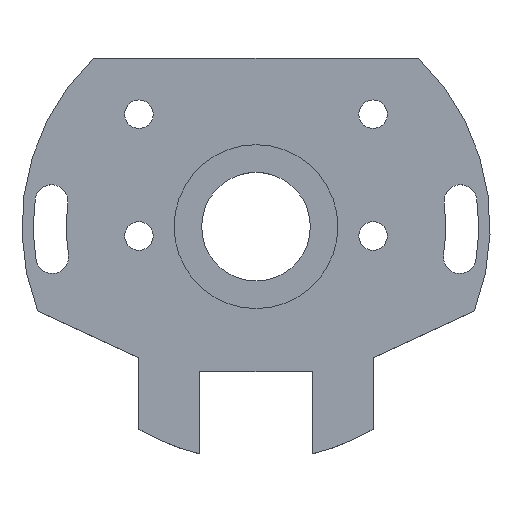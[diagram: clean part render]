
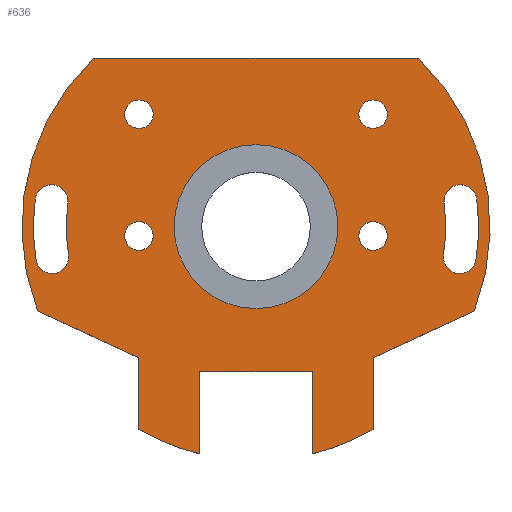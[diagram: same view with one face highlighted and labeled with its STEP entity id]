
A CAD part, top view. The second image highlights one B-rep face of the part: STEP entity #636.
In plain terms, the highlighted planar face has unit normal (0, 0, 1).
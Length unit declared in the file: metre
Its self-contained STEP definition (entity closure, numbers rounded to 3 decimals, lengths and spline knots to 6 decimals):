
#12=LINE('',#1019,#48);
#13=LINE('',#1022,#49);
#14=LINE('',#1026,#50);
#15=LINE('',#1028,#51);
#16=LINE('',#1032,#52);
#17=LINE('',#1036,#53);
#18=LINE('',#1038,#54);
#19=LINE('',#1042,#55);
#48=VECTOR('',#810,1.);
#49=VECTOR('',#811,1.);
#50=VECTOR('',#814,1.);
#51=VECTOR('',#815,1.);
#52=VECTOR('',#818,1.);
#53=VECTOR('',#821,1.);
#54=VECTOR('',#822,1.);
#55=VECTOR('',#825,1.);
#84=PLANE('',#690);
#101=ORIENTED_EDGE('',*,*,#269,.F.);
#102=ORIENTED_EDGE('',*,*,#270,.F.);
#103=ORIENTED_EDGE('',*,*,#271,.F.);
#104=ORIENTED_EDGE('',*,*,#272,.F.);
#105=ORIENTED_EDGE('',*,*,#273,.F.);
#106=ORIENTED_EDGE('',*,*,#274,.F.);
#107=ORIENTED_EDGE('',*,*,#275,.T.);
#108=ORIENTED_EDGE('',*,*,#276,.T.);
#109=ORIENTED_EDGE('',*,*,#277,.F.);
#110=ORIENTED_EDGE('',*,*,#278,.F.);
#111=ORIENTED_EDGE('',*,*,#279,.T.);
#112=ORIENTED_EDGE('',*,*,#280,.T.);
#113=ORIENTED_EDGE('',*,*,#281,.F.);
#114=ORIENTED_EDGE('',*,*,#282,.T.);
#115=ORIENTED_EDGE('',*,*,#283,.T.);
#116=ORIENTED_EDGE('',*,*,#284,.T.);
#117=ORIENTED_EDGE('',*,*,#285,.F.);
#118=ORIENTED_EDGE('',*,*,#286,.T.);
#119=ORIENTED_EDGE('',*,*,#287,.T.);
#120=ORIENTED_EDGE('',*,*,#288,.F.);
#121=ORIENTED_EDGE('',*,*,#289,.T.);
#122=ORIENTED_EDGE('',*,*,#290,.F.);
#123=ORIENTED_EDGE('',*,*,#291,.T.);
#124=ORIENTED_EDGE('',*,*,#292,.T.);
#125=ORIENTED_EDGE('',*,*,#293,.F.);
#269=EDGE_CURVE('',#353,#353,#417,.T.);
#270=EDGE_CURVE('',#354,#354,#418,.T.);
#271=EDGE_CURVE('',#355,#355,#419,.T.);
#272=EDGE_CURVE('',#356,#356,#420,.T.);
#273=EDGE_CURVE('',#357,#357,#421,.T.);
#274=EDGE_CURVE('',#358,#359,#422,.T.);
#275=EDGE_CURVE('',#358,#360,#423,.T.);
#276=EDGE_CURVE('',#360,#361,#424,.T.);
#277=EDGE_CURVE('',#359,#361,#425,.T.);
#278=EDGE_CURVE('',#362,#363,#426,.T.);
#279=EDGE_CURVE('',#362,#364,#427,.T.);
#280=EDGE_CURVE('',#364,#365,#428,.T.);
#281=EDGE_CURVE('',#363,#365,#429,.T.);
#282=EDGE_CURVE('',#366,#367,#12,.T.);
#283=EDGE_CURVE('',#367,#368,#13,.T.);
#284=EDGE_CURVE('',#368,#369,#430,.T.);
#285=EDGE_CURVE('',#370,#369,#14,.T.);
#286=EDGE_CURVE('',#370,#371,#15,.T.);
#287=EDGE_CURVE('',#371,#372,#431,.T.);
#288=EDGE_CURVE('',#373,#372,#16,.T.);
#289=EDGE_CURVE('',#373,#374,#432,.T.);
#290=EDGE_CURVE('',#375,#374,#17,.T.);
#291=EDGE_CURVE('',#375,#376,#18,.T.);
#292=EDGE_CURVE('',#376,#377,#433,.T.);
#293=EDGE_CURVE('',#366,#377,#19,.T.);
#353=VERTEX_POINT('',#994);
#354=VERTEX_POINT('',#996);
#355=VERTEX_POINT('',#998);
#356=VERTEX_POINT('',#1000);
#357=VERTEX_POINT('',#1002);
#358=VERTEX_POINT('',#1004);
#359=VERTEX_POINT('',#1005);
#360=VERTEX_POINT('',#1007);
#361=VERTEX_POINT('',#1009);
#362=VERTEX_POINT('',#1012);
#363=VERTEX_POINT('',#1013);
#364=VERTEX_POINT('',#1015);
#365=VERTEX_POINT('',#1017);
#366=VERTEX_POINT('',#1020);
#367=VERTEX_POINT('',#1021);
#368=VERTEX_POINT('',#1023);
#369=VERTEX_POINT('',#1025);
#370=VERTEX_POINT('',#1027);
#371=VERTEX_POINT('',#1029);
#372=VERTEX_POINT('',#1031);
#373=VERTEX_POINT('',#1033);
#374=VERTEX_POINT('',#1035);
#375=VERTEX_POINT('',#1037);
#376=VERTEX_POINT('',#1039);
#377=VERTEX_POINT('',#1041);
#417=CIRCLE('',#691,0.00305);
#418=CIRCLE('',#692,0.00305);
#419=CIRCLE('',#693,0.00305);
#420=CIRCLE('',#694,0.00305);
#421=CIRCLE('',#695,0.0175);
#422=CIRCLE('',#696,0.0035);
#423=CIRCLE('',#697,0.0475);
#424=CIRCLE('',#698,0.0035);
#425=CIRCLE('',#699,0.0405);
#426=CIRCLE('',#700,0.0035);
#427=CIRCLE('',#701,0.0405);
#428=CIRCLE('',#702,0.0035);
#429=CIRCLE('',#703,0.0475);
#430=CIRCLE('',#704,0.05);
#431=CIRCLE('',#705,0.05);
#432=CIRCLE('',#706,0.05);
#433=CIRCLE('',#707,0.05);
#465=EDGE_LOOP('',(#101));
#466=EDGE_LOOP('',(#102));
#467=EDGE_LOOP('',(#103));
#468=EDGE_LOOP('',(#104));
#469=EDGE_LOOP('',(#105));
#470=EDGE_LOOP('',(#106,#107,#108,#109));
#471=EDGE_LOOP('',(#110,#111,#112,#113));
#472=EDGE_LOOP('',(#114,#115,#116,#117,#118,#119,#120,#121,#122,#123,#124,
#125));
#539=FACE_BOUND('',#465,.T.);
#540=FACE_BOUND('',#466,.T.);
#541=FACE_BOUND('',#467,.T.);
#542=FACE_BOUND('',#468,.T.);
#543=FACE_BOUND('',#469,.T.);
#544=FACE_BOUND('',#470,.T.);
#545=FACE_BOUND('',#471,.T.);
#546=FACE_BOUND('',#472,.T.);
#636=ADVANCED_FACE('',(#539,#540,#541,#542,#543,#544,#545,#546),#84,.T.);
#690=AXIS2_PLACEMENT_3D('',#992,#782,#783);
#691=AXIS2_PLACEMENT_3D('',#993,#784,#785);
#692=AXIS2_PLACEMENT_3D('',#995,#786,#787);
#693=AXIS2_PLACEMENT_3D('',#997,#788,#789);
#694=AXIS2_PLACEMENT_3D('',#999,#790,#791);
#695=AXIS2_PLACEMENT_3D('',#1001,#792,#793);
#696=AXIS2_PLACEMENT_3D('',#1003,#794,#795);
#697=AXIS2_PLACEMENT_3D('',#1006,#796,#797);
#698=AXIS2_PLACEMENT_3D('',#1008,#798,#799);
#699=AXIS2_PLACEMENT_3D('',#1010,#800,#801);
#700=AXIS2_PLACEMENT_3D('',#1011,#802,#803);
#701=AXIS2_PLACEMENT_3D('',#1014,#804,#805);
#702=AXIS2_PLACEMENT_3D('',#1016,#806,#807);
#703=AXIS2_PLACEMENT_3D('',#1018,#808,#809);
#704=AXIS2_PLACEMENT_3D('',#1024,#812,#813);
#705=AXIS2_PLACEMENT_3D('',#1030,#816,#817);
#706=AXIS2_PLACEMENT_3D('',#1034,#819,#820);
#707=AXIS2_PLACEMENT_3D('',#1040,#823,#824);
#782=DIRECTION('',(0.,0.,1.));
#783=DIRECTION('',(1.,0.,0.));
#784=DIRECTION('',(0.,0.,1.));
#785=DIRECTION('',(1.,0.,0.));
#786=DIRECTION('',(0.,0.,1.));
#787=DIRECTION('',(1.,0.,0.));
#788=DIRECTION('',(0.,0.,1.));
#789=DIRECTION('',(1.,0.,0.));
#790=DIRECTION('',(0.,0.,1.));
#791=DIRECTION('',(1.,0.,0.));
#792=DIRECTION('',(0.,0.,1.));
#793=DIRECTION('',(1.,0.,0.));
#794=DIRECTION('',(0.,0.,1.));
#795=DIRECTION('',(1.,0.,0.));
#796=DIRECTION('',(0.,0.,-1.));
#797=DIRECTION('',(1.,0.,0.));
#798=DIRECTION('',(0.,0.,-1.));
#799=DIRECTION('',(1.,0.,0.));
#800=DIRECTION('',(0.,0.,-1.));
#801=DIRECTION('',(1.,0.,0.));
#802=DIRECTION('',(0.,0.,1.));
#803=DIRECTION('',(1.,0.,0.));
#804=DIRECTION('',(0.,0.,1.));
#805=DIRECTION('',(1.,0.,0.));
#806=DIRECTION('',(0.,0.,-1.));
#807=DIRECTION('',(1.,0.,0.));
#808=DIRECTION('',(0.,0.,1.));
#809=DIRECTION('',(1.,0.,0.));
#810=DIRECTION('',(1.,0.,0.));
#811=DIRECTION('',(0.,-1.,0.));
#812=DIRECTION('',(0.,0.,1.));
#813=DIRECTION('',(1.,0.,0.));
#814=DIRECTION('',(0.,-1.,0.));
#815=DIRECTION('',(0.908,0.419,0.));
#816=DIRECTION('',(0.,0.,1.));
#817=DIRECTION('',(1.,0.,0.));
#818=DIRECTION('',(1.,0.,0.));
#819=DIRECTION('',(0.,0.,1.));
#820=DIRECTION('',(1.,0.,0.));
#821=DIRECTION('',(-0.908,0.419,0.));
#822=DIRECTION('',(0.,-1.,0.));
#823=DIRECTION('',(0.,0.,1.));
#824=DIRECTION('',(1.,0.,0.));
#825=DIRECTION('',(0.,-1.,0.));
#992=CARTESIAN_POINT('',(0.,-0.007,0.01));
#993=CARTESIAN_POINT('',(-0.025,-0.002,0.01));
#994=CARTESIAN_POINT('',(-0.02195,-0.002,0.01));
#995=CARTESIAN_POINT('',(-0.025,0.024,0.01));
#996=CARTESIAN_POINT('',(-0.02195,0.024,0.01));
#997=CARTESIAN_POINT('',(0.025,0.024,0.01));
#998=CARTESIAN_POINT('',(0.02805,0.024,0.01));
#999=CARTESIAN_POINT('',(0.025,-0.002,0.01));
#1000=CARTESIAN_POINT('',(0.02805,-0.002,0.01));
#1001=CARTESIAN_POINT('',(0.,0.,0.01));
#1002=CARTESIAN_POINT('',(0.0175,0.,0.01));
#1003=CARTESIAN_POINT('',(0.043663,0.005432,0.01));
#1004=CARTESIAN_POINT('',(0.047137,0.005864,0.01));
#1005=CARTESIAN_POINT('',(0.04019,0.005,0.01));
#1006=CARTESIAN_POINT('',(0.,0.,0.01));
#1007=CARTESIAN_POINT('',(0.046976,-0.007037,0.01));
#1008=CARTESIAN_POINT('',(0.043514,-0.006519,0.01));
#1009=CARTESIAN_POINT('',(0.040053,-0.006,0.01));
#1010=CARTESIAN_POINT('',(0.,0.,0.01));
#1011=CARTESIAN_POINT('',(-0.043663,0.005432,0.01));
#1012=CARTESIAN_POINT('',(-0.04019,0.005,0.01));
#1013=CARTESIAN_POINT('',(-0.047137,0.005864,0.01));
#1014=CARTESIAN_POINT('',(0.,0.,0.01));
#1015=CARTESIAN_POINT('',(-0.040053,-0.006,0.01));
#1016=CARTESIAN_POINT('',(-0.043514,-0.006519,0.01));
#1017=CARTESIAN_POINT('',(-0.046976,-0.007037,0.01));
#1018=CARTESIAN_POINT('',(0.,0.,0.01));
#1019=CARTESIAN_POINT('',(0.,-0.031,0.01));
#1020=CARTESIAN_POINT('',(-0.012,-0.031,0.01));
#1021=CARTESIAN_POINT('',(0.012,-0.031,0.01));
#1022=CARTESIAN_POINT('',(0.012,-0.007,0.01));
#1023=CARTESIAN_POINT('',(0.012,-0.048539,0.01));
#1024=CARTESIAN_POINT('',(0.,0.,0.01));
#1025=CARTESIAN_POINT('',(0.025,-0.043301,0.01));
#1026=CARTESIAN_POINT('',(0.025,-0.035651,0.01));
#1027=CARTESIAN_POINT('',(0.025,-0.028,0.01));
#1028=CARTESIAN_POINT('',(0.035824,-0.023,0.01));
#1029=CARTESIAN_POINT('',(0.046648,-0.018,0.01));
#1030=CARTESIAN_POINT('',(0.,0.,0.01));
#1031=CARTESIAN_POINT('',(0.034699,0.036,0.01));
#1032=CARTESIAN_POINT('',(0.,0.036,0.01));
#1033=CARTESIAN_POINT('',(-0.034699,0.036,0.01));
#1034=CARTESIAN_POINT('',(0.,0.,0.01));
#1035=CARTESIAN_POINT('',(-0.046648,-0.018,0.01));
#1036=CARTESIAN_POINT('',(-0.035824,-0.023,0.01));
#1037=CARTESIAN_POINT('',(-0.025,-0.028,0.01));
#1038=CARTESIAN_POINT('',(-0.025,-0.035651,0.01));
#1039=CARTESIAN_POINT('',(-0.025,-0.043301,0.01));
#1040=CARTESIAN_POINT('',(0.,0.,0.01));
#1041=CARTESIAN_POINT('',(-0.012,-0.048539,0.01));
#1042=CARTESIAN_POINT('',(-0.012,-0.007,0.01));
